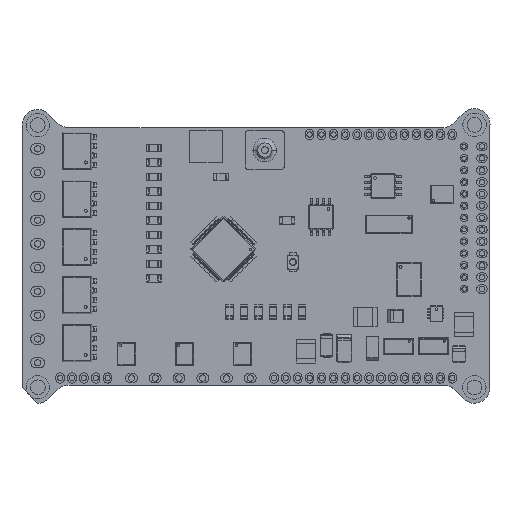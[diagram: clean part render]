
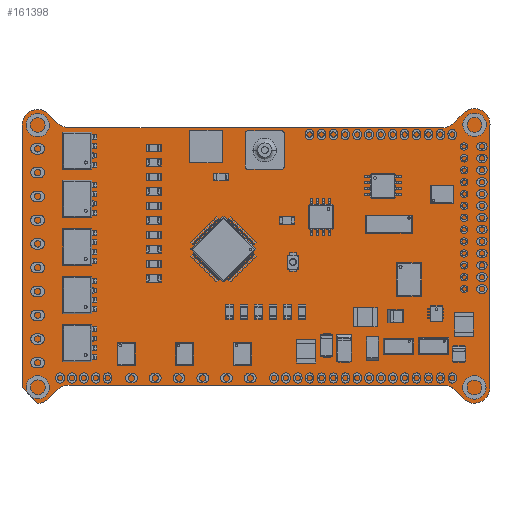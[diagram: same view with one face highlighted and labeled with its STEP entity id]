
A CAD part, top view. The second image highlights one B-rep face of the part: STEP entity #161398.
In plain terms, the highlighted planar face has unit normal (0, 0, -1).
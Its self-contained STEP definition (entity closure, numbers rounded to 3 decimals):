
#160602 = VERTEX_POINT('',#160603);
#160603 = CARTESIAN_POINT('',(46.675,31.485,1.6));
#160609 = EDGE_CURVE('',#160602,#160610,#160612,.T.);
#160610 = VERTEX_POINT('',#160611);
#160611 = CARTESIAN_POINT('',(50.015,28.145,1.6));
#160612 = CIRCLE('',#160613,3.342);
#160613 = AXIS2_PLACEMENT_3D('',#160614,#160615,#160616);
#160614 = CARTESIAN_POINT('',(46.673,28.143,1.6));
#160615 = DIRECTION('',(0.,0.,-1.));
#160616 = DIRECTION('',(0.001,1.,0.));
#160642 = EDGE_CURVE('',#160610,#160643,#160645,.T.);
#160643 = VERTEX_POINT('',#160644);
#160644 = CARTESIAN_POINT('',(49.995,-28.135,1.6));
#160645 = LINE('',#160646,#160647);
#160646 = CARTESIAN_POINT('',(50.015,28.145,1.6));
#160647 = VECTOR('',#160648,1.);
#160648 = DIRECTION('',(0.,-1.,0.));
#160673 = EDGE_CURVE('',#160643,#160674,#160676,.T.);
#160674 = VERTEX_POINT('',#160675);
#160675 = CARTESIAN_POINT('',(46.655,-31.465,1.6));
#160676 = CIRCLE('',#160677,3.342);
#160677 = AXIS2_PLACEMENT_3D('',#160678,#160679,#160680);
#160678 = CARTESIAN_POINT('',(46.653,-28.123,1.6));
#160679 = DIRECTION('',(0.,0.,-1.));
#160680 = DIRECTION('',(1.,-0.004,0.));
#160706 = EDGE_CURVE('',#160674,#160707,#160709,.T.);
#160707 = VERTEX_POINT('',#160708);
#160708 = CARTESIAN_POINT('',(46.655,-31.467,1.6));
#160709 = LINE('',#160710,#160711);
#160710 = CARTESIAN_POINT('',(46.655,-31.465,1.6));
#160711 = VECTOR('',#160712,1.);
#160712 = DIRECTION('',(-0.003,-1.,0.));
#160737 = EDGE_CURVE('',#160707,#160738,#160740,.T.);
#160738 = VERTEX_POINT('',#160739);
#160739 = CARTESIAN_POINT('',(44.295,-30.485,1.6));
#160740 = CIRCLE('',#160741,3.352);
#160741 = AXIS2_PLACEMENT_3D('',#160742,#160743,#160744);
#160742 = CARTESIAN_POINT('',(46.665,-28.115,1.6));
#160743 = DIRECTION('',(0.,0.,-1.));
#160744 = DIRECTION('',(-0.003,-1.,-0.));
#160770 = EDGE_CURVE('',#160738,#160771,#160773,.T.);
#160771 = VERTEX_POINT('',#160772);
#160772 = CARTESIAN_POINT('',(42.364,-28.556,1.6));
#160773 = LINE('',#160774,#160775);
#160774 = CARTESIAN_POINT('',(44.295,-30.485,1.6));
#160775 = VECTOR('',#160776,1.);
#160776 = DIRECTION('',(-0.707,0.707,0.));
#160810 = VERTEX_POINT('',#160811);
#160811 = CARTESIAN_POINT('',(39.996,-27.575,1.6));
#160817 = EDGE_CURVE('',#160771,#160810,#160818,.T.);
#160818 = CIRCLE('',#160819,3.349);
#160819 = AXIS2_PLACEMENT_3D('',#160820,#160821,#160822);
#160820 = CARTESIAN_POINT('',(39.996,-30.924,1.6));
#160821 = DIRECTION('',(0.,0.,1.));
#160822 = DIRECTION('',(0.707,0.707,-0.));
#160834 = EDGE_CURVE('',#160810,#160835,#160837,.T.);
#160835 = VERTEX_POINT('',#160836);
#160836 = CARTESIAN_POINT('',(39.995,-27.575,1.6));
#160837 = LINE('',#160838,#160839);
#160838 = CARTESIAN_POINT('',(39.996,-27.575,1.6));
#160839 = VECTOR('',#160840,1.);
#160840 = DIRECTION('',(-1.,0.,0.));
#160865 = EDGE_CURVE('',#160835,#160866,#160868,.T.);
#160866 = VERTEX_POINT('',#160867);
#160867 = CARTESIAN_POINT('',(-39.946,-27.594,1.6));
#160868 = LINE('',#160869,#160870);
#160869 = CARTESIAN_POINT('',(39.995,-27.575,1.6));
#160870 = VECTOR('',#160871,1.);
#160871 = DIRECTION('',(-1.,0.,0.));
#160905 = VERTEX_POINT('',#160906);
#160906 = CARTESIAN_POINT('',(-42.375,-28.575,1.6));
#160912 = EDGE_CURVE('',#160866,#160905,#160913,.T.);
#160913 = CIRCLE('',#160914,3.357);
#160914 = AXIS2_PLACEMENT_3D('',#160915,#160916,#160917);
#160915 = CARTESIAN_POINT('',(-40.003,-30.95,1.6));
#160916 = DIRECTION('',(0.,0.,1.));
#160917 = DIRECTION('',(0.017,1.,-0.));
#160929 = EDGE_CURVE('',#160905,#160930,#160932,.T.);
#160930 = VERTEX_POINT('',#160931);
#160931 = CARTESIAN_POINT('',(-44.306,-30.504,1.6));
#160932 = LINE('',#160933,#160934);
#160933 = CARTESIAN_POINT('',(-42.375,-28.575,1.6));
#160934 = VECTOR('',#160935,1.);
#160935 = DIRECTION('',(-0.708,-0.707,0.));
#160960 = EDGE_CURVE('',#160930,#160961,#160963,.T.);
#160961 = VERTEX_POINT('',#160962);
#160962 = CARTESIAN_POINT('',(-46.675,-31.485,1.6));
#160963 = CIRCLE('',#160964,3.35);
#160964 = AXIS2_PLACEMENT_3D('',#160965,#160966,#160967);
#160965 = CARTESIAN_POINT('',(-46.675,-28.135,1.6));
#160966 = DIRECTION('',(0.,0.,-1.));
#160967 = DIRECTION('',(0.707,-0.707,0.));
#160993 = EDGE_CURVE('',#160961,#160994,#160996,.T.);
#160994 = VERTEX_POINT('',#160995);
#160995 = CARTESIAN_POINT('',(-50.015,-28.135,1.6));
#160996 = LINE('',#160997,#160998);
#160997 = CARTESIAN_POINT('',(-46.675,-31.485,1.6));
#160998 = VECTOR('',#160999,1.);
#160999 = DIRECTION('',(-0.706,0.708,0.));
#161024 = EDGE_CURVE('',#160994,#161025,#161027,.T.);
#161025 = VERTEX_POINT('',#161026);
#161026 = CARTESIAN_POINT('',(-49.995,27.975,1.6));
#161027 = LINE('',#161028,#161029);
#161028 = CARTESIAN_POINT('',(-50.015,-28.135,1.6));
#161029 = VECTOR('',#161030,1.);
#161030 = DIRECTION('',(0.,1.,0.));
#161055 = EDGE_CURVE('',#161025,#161056,#161058,.T.);
#161056 = VERTEX_POINT('',#161057);
#161057 = CARTESIAN_POINT('',(-46.665,31.325,1.6));
#161058 = CIRCLE('',#161059,3.34);
#161059 = AXIS2_PLACEMENT_3D('',#161060,#161061,#161062);
#161060 = CARTESIAN_POINT('',(-46.655,27.985,1.6));
#161061 = DIRECTION('',(0.,0.,-1.));
#161062 = DIRECTION('',(-1.,-0.003,-0.));
#161088 = EDGE_CURVE('',#161056,#161089,#161091,.T.);
#161089 = VERTEX_POINT('',#161090);
#161090 = CARTESIAN_POINT('',(-46.665,31.322,1.6));
#161091 = LINE('',#161092,#161093);
#161092 = CARTESIAN_POINT('',(-46.665,31.325,1.6));
#161093 = VECTOR('',#161094,1.);
#161094 = DIRECTION('',(0.002,-1.,0.));
#161119 = EDGE_CURVE('',#161089,#161120,#161122,.T.);
#161120 = VERTEX_POINT('',#161121);
#161121 = CARTESIAN_POINT('',(-44.297,30.345,1.6));
#161122 = CIRCLE('',#161123,3.345);
#161123 = AXIS2_PLACEMENT_3D('',#161124,#161125,#161126);
#161124 = CARTESIAN_POINT('',(-46.659,27.977,1.6));
#161125 = DIRECTION('',(0.,0.,-1.));
#161126 = DIRECTION('',(-0.002,1.,0.));
#161152 = EDGE_CURVE('',#161120,#161153,#161155,.T.);
#161153 = VERTEX_POINT('',#161154);
#161154 = CARTESIAN_POINT('',(-44.295,30.345,1.6));
#161155 = LINE('',#161156,#161157);
#161156 = CARTESIAN_POINT('',(-44.297,30.345,1.6));
#161157 = VECTOR('',#161158,1.);
#161158 = DIRECTION('',(1.,0.,0.));
#161183 = EDGE_CURVE('',#161153,#161184,#161186,.T.);
#161184 = VERTEX_POINT('',#161185);
#161185 = CARTESIAN_POINT('',(-42.364,28.416,1.6));
#161186 = LINE('',#161187,#161188);
#161187 = CARTESIAN_POINT('',(-44.295,30.345,1.6));
#161188 = VECTOR('',#161189,1.);
#161189 = DIRECTION('',(0.707,-0.707,0.));
#161223 = VERTEX_POINT('',#161224);
#161224 = CARTESIAN_POINT('',(-39.995,27.435,1.6));
#161230 = EDGE_CURVE('',#161184,#161223,#161231,.T.);
#161231 = CIRCLE('',#161232,3.349);
#161232 = AXIS2_PLACEMENT_3D('',#161233,#161234,#161235);
#161233 = CARTESIAN_POINT('',(-39.996,30.784,1.6));
#161234 = DIRECTION('',(0.,0.,1.));
#161235 = DIRECTION('',(-0.707,-0.707,0.));
#161247 = EDGE_CURVE('',#161223,#161248,#161250,.T.);
#161248 = VERTEX_POINT('',#161249);
#161249 = CARTESIAN_POINT('',(39.865,27.415,1.6));
#161250 = LINE('',#161251,#161252);
#161251 = CARTESIAN_POINT('',(-39.995,27.435,1.6));
#161252 = VECTOR('',#161253,1.);
#161253 = DIRECTION('',(1.,0.,0.));
#161287 = VERTEX_POINT('',#161288);
#161288 = CARTESIAN_POINT('',(42.385,28.565,1.6));
#161294 = EDGE_CURVE('',#161248,#161287,#161295,.T.);
#161295 = CIRCLE('',#161296,3.385);
#161296 = AXIS2_PLACEMENT_3D('',#161297,#161298,#161299);
#161297 = CARTESIAN_POINT('',(39.843,30.8,1.6));
#161298 = DIRECTION('',(0.,0.,1.));
#161299 = DIRECTION('',(0.006,-1.,0.));
#161311 = EDGE_CURVE('',#161287,#161312,#161314,.T.);
#161312 = VERTEX_POINT('',#161313);
#161313 = CARTESIAN_POINT('',(44.306,30.484,1.6));
#161314 = LINE('',#161315,#161316);
#161315 = CARTESIAN_POINT('',(42.385,28.565,1.6));
#161316 = VECTOR('',#161317,1.);
#161317 = DIRECTION('',(0.707,0.707,0.));
#161342 = EDGE_CURVE('',#161312,#160602,#161343,.T.);
#161343 = CIRCLE('',#161344,3.35);
#161344 = AXIS2_PLACEMENT_3D('',#161345,#161346,#161347);
#161345 = CARTESIAN_POINT('',(46.695,28.135,1.6));
#161346 = DIRECTION('',(0.,0.,-1.));
#161347 = DIRECTION('',(-0.713,0.701,0.));
#161398 = ADVANCED_FACE('',(#161399),#161425,.F.);
#161399 = FACE_BOUND('',#161400,.F.);
#161400 = EDGE_LOOP('',(#161401,#161402,#161403,#161404,#161405,#161406,
    #161407,#161408,#161409,#161410,#161411,#161412,#161413,#161414,
    #161415,#161416,#161417,#161418,#161419,#161420,#161421,#161422,
    #161423,#161424));
#161401 = ORIENTED_EDGE('',*,*,#161342,.F.);
#161402 = ORIENTED_EDGE('',*,*,#161311,.F.);
#161403 = ORIENTED_EDGE('',*,*,#161294,.F.);
#161404 = ORIENTED_EDGE('',*,*,#161247,.F.);
#161405 = ORIENTED_EDGE('',*,*,#161230,.F.);
#161406 = ORIENTED_EDGE('',*,*,#161183,.F.);
#161407 = ORIENTED_EDGE('',*,*,#161152,.F.);
#161408 = ORIENTED_EDGE('',*,*,#161119,.F.);
#161409 = ORIENTED_EDGE('',*,*,#161088,.F.);
#161410 = ORIENTED_EDGE('',*,*,#161055,.F.);
#161411 = ORIENTED_EDGE('',*,*,#161024,.F.);
#161412 = ORIENTED_EDGE('',*,*,#160993,.F.);
#161413 = ORIENTED_EDGE('',*,*,#160960,.F.);
#161414 = ORIENTED_EDGE('',*,*,#160929,.F.);
#161415 = ORIENTED_EDGE('',*,*,#160912,.F.);
#161416 = ORIENTED_EDGE('',*,*,#160865,.F.);
#161417 = ORIENTED_EDGE('',*,*,#160834,.F.);
#161418 = ORIENTED_EDGE('',*,*,#160817,.F.);
#161419 = ORIENTED_EDGE('',*,*,#160770,.F.);
#161420 = ORIENTED_EDGE('',*,*,#160737,.F.);
#161421 = ORIENTED_EDGE('',*,*,#160706,.F.);
#161422 = ORIENTED_EDGE('',*,*,#160673,.F.);
#161423 = ORIENTED_EDGE('',*,*,#160642,.F.);
#161424 = ORIENTED_EDGE('',*,*,#160609,.F.);
#161425 = PLANE('',#161426);
#161426 = AXIS2_PLACEMENT_3D('',#161427,#161428,#161429);
#161427 = CARTESIAN_POINT('',(0.107,-0.002,1.6));
#161428 = DIRECTION('',(0.,0.,1.));
#161429 = DIRECTION('',(1.,0.,-0.));
